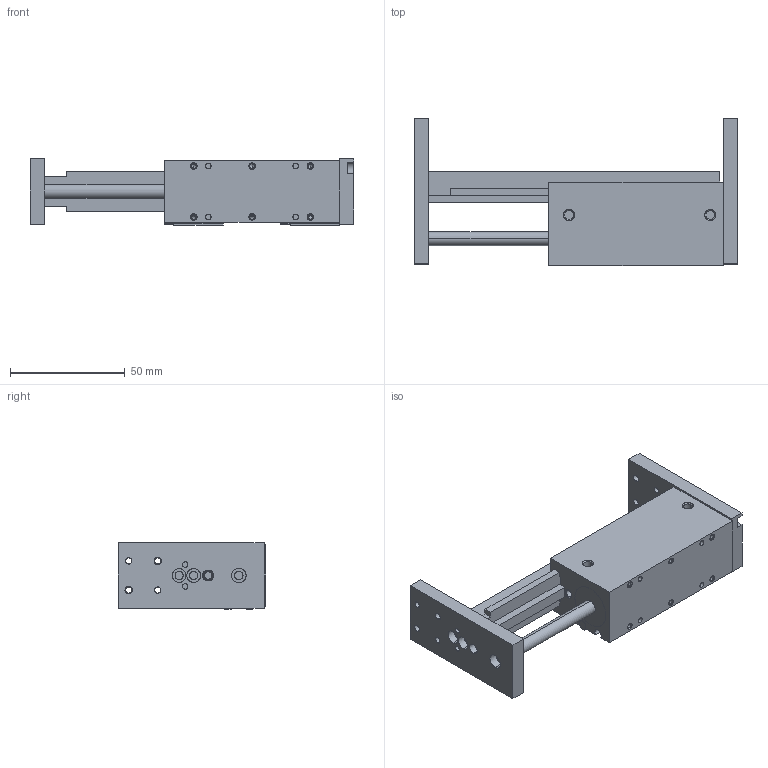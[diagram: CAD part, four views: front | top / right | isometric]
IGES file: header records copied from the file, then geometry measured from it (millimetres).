
Start section: SolidWorks IGES file using analytic representation for surfaces
Global section: file name: C:\Users\jmkuhnes\Pictures\My Transfers\AGPS\AGPS-2-4\AGPS-2-4 OPEN in IN.IGS; native system: SolidWorks 2013; preprocessor: SolidWorks 2013; author: jmkuhnes; date: 141121.140508; units: inch
Bounding box: 141.29 x 64.16 x 29 mm (x, y, z)
Surface area: 39189.2 mm2 (no closed solid volume)
Topology: 0 solids, 0 shells, 332 faces, 5418 edges, 5400 vertices
Faces by surface type: revolution 203, bspline 129
